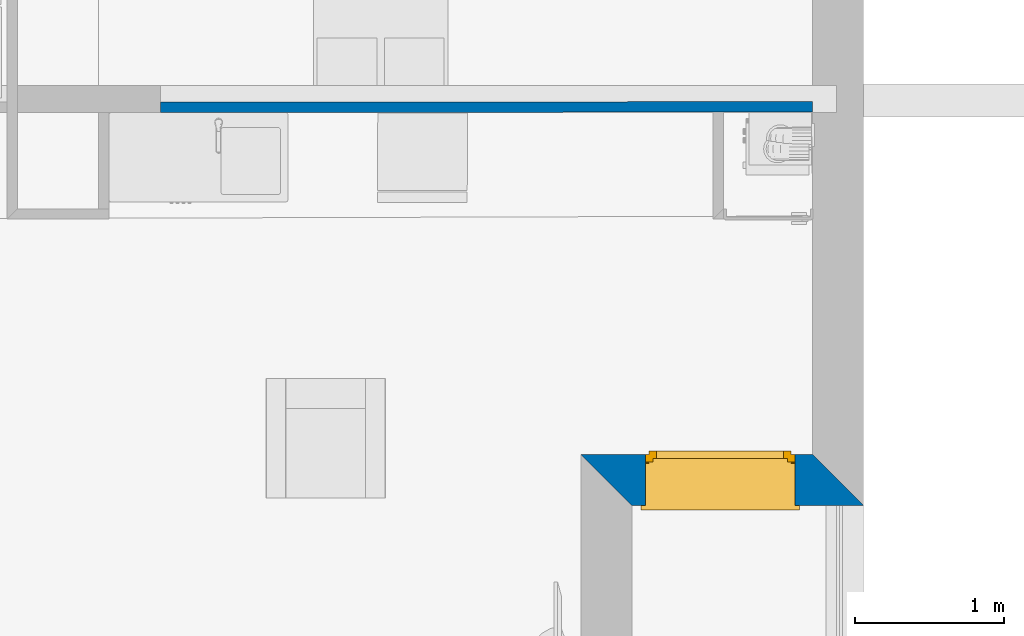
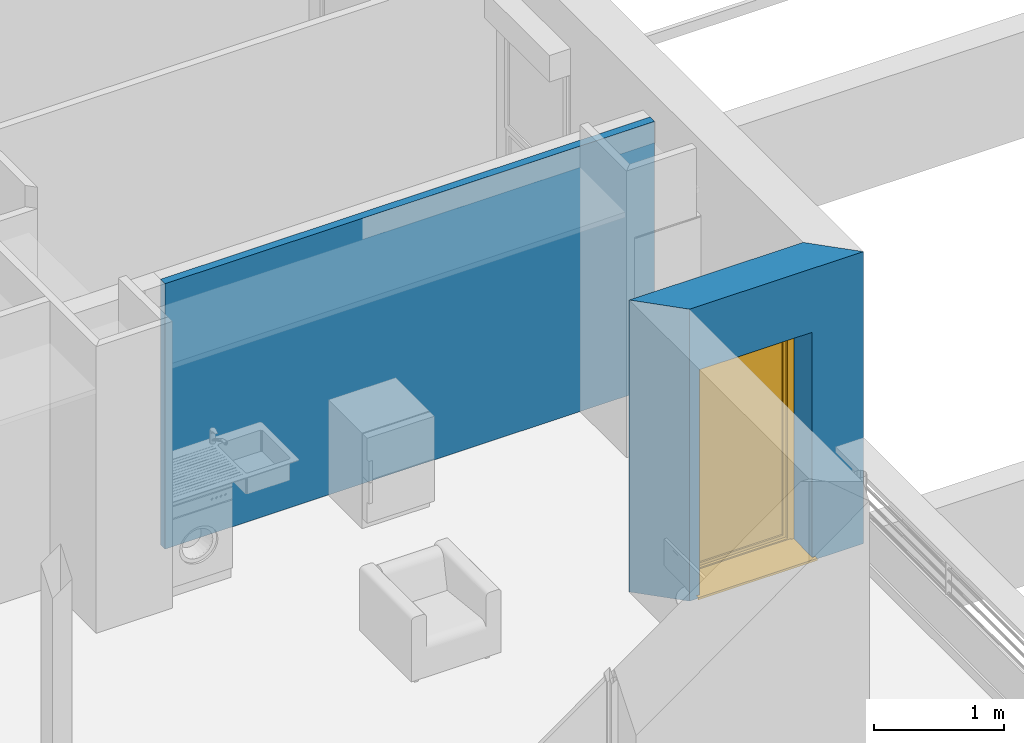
# One storey, part 25 of 171: 2 walls, 1 window, 1 opening.
"""IFC2X3 building model written with IfcOpenShell, lengths in millimetres."""

from ifc_helpers import new_model, entity, si_unit, converted_unit, derived_unit, money_unit, direction, frame, origin_with_axes, place, context, subcontext, project, spatial, polyline, outline, extrude, open_shell, faceted_brep, surface_model, source, transform, mapped, material, layer, layer_set, layer_usage, type_object, element, fill, save


model = new_model("IFC2X3")

# Units and contexts
model_context = context("Model", 3, precision=0.01, world=origin_with_axes(), true_north=direction((0.0, 1.0)))
body_context = subcontext(model_context, "Body", "Model", "MODEL_VIEW")
ifc_project = project(units=[si_unit("LENGTHUNIT", "METRE", prefix="MILLI"), si_unit("AREAUNIT", "SQUARE_METRE"), si_unit("VOLUMEUNIT", "CUBIC_METRE"), converted_unit("PLANEANGLEUNIT", "DEGREE", entity("IfcPlaneAngleMeasure", 0.0174532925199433), si_unit("PLANEANGLEUNIT", "RADIAN"), dimensions=[0, 0, 0, 0, 0, 0, 0]), money_unit("USD"), converted_unit("TIMEUNIT", "Year", entity("IfcTimeMeasure", 31557600.0), si_unit("TIMEUNIT", "SECOND"), dimensions=[0, 0, 1, 0, 0, 0, 0]), si_unit("MASSUNIT", "GRAM", prefix="KILO"), si_unit("THERMODYNAMICTEMPERATUREUNIT", "DEGREE_CELSIUS"), si_unit("LUMINOUSINTENSITYUNIT", "LUMEN"), si_unit("ENERGYUNIT", "JOULE", prefix="MEGA"), derived_unit("THERMALCONDUCTANCEUNIT", [(si_unit("POWERUNIT", "WATT"), 1), (si_unit("LENGTHUNIT", "METRE"), -1), (si_unit("THERMODYNAMICTEMPERATUREUNIT", "KELVIN"), -1)]), derived_unit("SPECIFICHEATCAPACITYUNIT", [(si_unit("ENERGYUNIT", "JOULE"), 1), (si_unit("MASSUNIT", "GRAM", prefix="KILO"), -1), (si_unit("THERMODYNAMICTEMPERATUREUNIT", "KELVIN"), -1)]), derived_unit("MASSDENSITYUNIT", [(si_unit("MASSUNIT", "GRAM", prefix="KILO"), 1), (si_unit("VOLUMEUNIT", "CUBIC_METRE"), -1)])], contexts=[model_context])

# Site, building, storey
site_placement = place(None, origin_with_axes())
site = spatial("IfcSite", under=ifc_project, at=site_placement, Name="Site", CompositionType="ELEMENT")
building_placement = place(site_placement, origin_with_axes())
building = spatial("IfcBuilding", under=site, at=building_placement, Name="Bâtiment", CompositionType="ELEMENT")
storey_placement = place(building_placement, frame((0.0, 0.0, 3000.0), z_axis=(0.0, 0.0, 1.0), x_axis=(1.0, 0.0, 0.0)))
storey = spatial("IfcBuildingStorey", under=building, at=storey_placement, Name="rdc", CompositionType="ELEMENT", Elevation=3000.0)

# Wall
ifc_material_1 = material(Name="Hachure solide 268963992")
ifc_layer_1 = layer(ifc_material_1, 70.0, ventilated="UNKNOWN")
ifc_layer_set_1 = layer_set([ifc_layer_1], Name="Cloison 70 0826278243")
ifc_layer_usage_1 = layer_usage(ifc_layer_set_1, "AXIS2", "NEGATIVE", 70.0)
wall_type_1 = type_object("IfcWallType", Name="Cloison 70 0826278243 70", PredefinedType="NOTDEFINED")
wall_1_placement = place(storey_placement, frame((2229653.476042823, -652412.6820640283, 0.0), z_axis=(0.0, 0.0, 1.0), x_axis=(0.9999998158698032, 0.0006068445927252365, 0.0)))
element("IfcWallStandardCase", 1, at=wall_1_placement, inside=storey, type_object=wall_type_1, material=ifc_layer_usage_1, Name="Mur-149", context=body_context, shape_type="SweptSolid", body=[
    extrude(outline(polyline([(0.0, 0.0), (4363.183309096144, 0.0), (4363.225391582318, 70.00000000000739), (-1.13686837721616e-10, 70.00000000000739), (0.0, 0.0)])), origin_with_axes(), (0.0, 0.0, 1.0), 2500.0),
])

# Wall, opening, window
ifc_material_2 = material(Name="Parpaing 312445824")
ifc_layer_2 = layer(ifc_material_2, 180.0, ventilated="UNKNOWN")
ifc_material_3 = material(Name="Isolant styromousse 301821074")
ifc_layer_3 = layer(ifc_material_3, 160.0, ventilated="UNKNOWN")
ifc_layer_set_2 = layer_set([ifc_layer_2, ifc_layer_3], Name="isol int 18+16 0018356637")
ifc_layer_usage_2 = layer_usage(ifc_layer_set_2, "AXIS2", "POSITIVE", 0.0)
wall_type_2 = type_object("IfcWallType", Name="isol int 18+16 0018356637 340", PredefinedType="NOTDEFINED")
wall_2_placement = place(storey_placement, frame((2232806.658098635, -655041.4677782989, 0.0), z_axis=(0.0, 0.0, 1.0), x_axis=(1.0, 0.0, 0.0)))
wall_2 = element("IfcWallStandardCase", 2, at=wall_2_placement, inside=storey, type_object=wall_type_2, material=ifc_layer_usage_2, Name="Mur-142", context=body_context, shape_type="SweptSolid", body=[
    extrude(outline(polyline([(0.0, 0.0), (1550.015360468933, 0.0), (1210.013433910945, 340.0000000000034), (-340.0000000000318, 340.0000000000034), (0.0, 0.0)])), origin_with_axes(), (0.0, 0.0, 1.0), 2750.0),
])
opening_placement = place(wall_2_placement, frame((591.6458676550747, 0.0, 0.0), z_axis=(0.0, 0.0, 1.0), x_axis=(1.0, 0.0, 0.0)))
opening = element("IfcOpeningElement", 3, at=opening_placement, cuts=wall_2, Name="Fen-134", context=body_context, shape_type="Brep", body=[
    faceted_brep([(-500.0, 341.0000000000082, 2150.0), (500.0, 341.0000000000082, 2150.0), (500.0, 341.0000000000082, 0.0), (-500.0, 341.0000000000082, 0.0), (-500.0, 530.0000000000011, 2150.0), (500.0, 530.0000000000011, 2150.0), (500.0, 290.0000000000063, 2150.0), (500.0, 290.0000000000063, 0.0), (500.0, -1.000000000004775, 0.0), (-500.0, -1.000000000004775, 0.0), (-500.0, 290.0000000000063, 0.0), (-500.0, 290.0000000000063, 2150.0), (-500.0, 280.0000000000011, 2150.0), (-500.0, 280.0000000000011, 2400.0), (-500.0, 530.0000000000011, 2400.0), (500.0, 530.0000000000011, 2400.0), (500.0, 280.0000000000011, 2400.0), (500.0, 280.0000000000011, 2150.0), (500.0, -1.000000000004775, 2150.0), (-500.0, -1.000000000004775, 2150.0)], [[[0, 1, 2, 3]], [[1, 0, 4, 5]], [[1, 6, 7, 2]], [[7, 8, 9, 10, 3, 2]], [[11, 0, 3, 10]], [[0, 11, 12, 13, 14, 4]], [[15, 5, 4, 14]], [[6, 1, 5, 15, 16, 17]], [[6, 17, 18, 8, 7]], [[19, 9, 8, 18]], [[12, 11, 10, 9, 19]], [[12, 17, 16, 13]], [[16, 15, 14, 13]], [[17, 12, 19, 18]]]),
])
window_style = type_object("IfcWindowStyle", Name="Fenêtre 27", ConstructionType="NOTDEFINED", OperationType="SINGLE_PANEL", ParameterTakesPrecedence=False, Sizeable=False)
shared_shape = source(origin_with_axes(), body_context, "Body", "SurfaceModel", [
    surface_model("IfcShellBasedSurfaceModel", [(500.0, -51.00000000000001, 40.00000000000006), (500.0, -51.00000000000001, 50.00000000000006), (-500.0, -51.00000000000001, 50.0), (-500.0, -51.00000000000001, 40.0), (530.0, -369.9999999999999, 28.96551724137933), (530.0, -339.9999999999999, 30.00324289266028), (500.0, -339.9999999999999, 30.00324289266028), (-500.0, -339.9999999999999, 30.00324289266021), (-530.0, -339.9999999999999, 30.00324289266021), (-530.0, -369.9999999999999, 28.96551724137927), (530.0, -369.9999999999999, 8.96551724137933), (-530.0, -369.9999999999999, 8.965517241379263), (530.0, -359.9999999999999, 18.96551724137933), (-530.0, -359.9999999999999, 18.96551724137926)], [open_shell([[[0, 1, 2, 3]], [[4, 5, 6, 0, 3, 7, 8, 9]], [[10, 4, 9, 11]], [[12, 10, 11, 13]]])]),
    faceted_brep([(-500.0, -59.99999999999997, 2400.0), (-497.0, -59.99999999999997, 2400.0), (-497.0, 190.0, 2400.0), (-500.0, 190.0, 2400.0), (-500.0, -59.99999999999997, 2150.0), (-497.0, -59.99999999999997, 2150.0), (-497.0, 190.0, 2150.0), (-500.0, 190.0, 2150.0)], [[[0, 1, 2, 3]], [[4, 5, 1, 0]], [[1, 5, 6, 2]], [[3, 2, 6, 7]], [[0, 3, 7, 4]], [[7, 6, 5, 4]]]),
    faceted_brep([(497.0, -59.99999999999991, 2400.0), (500.0, -59.99999999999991, 2400.0), (500.0, 190.0000000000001, 2400.0), (497.0, 190.0000000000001, 2400.0), (497.0, -59.99999999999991, 2150.0), (500.0, -59.99999999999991, 2150.0), (500.0, 190.0000000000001, 2150.0), (497.0, 190.0000000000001, 2150.0)], [[[0, 1, 2, 3]], [[4, 5, 1, 0]], [[1, 5, 6, 2]], [[3, 2, 6, 7]], [[0, 3, 7, 4]], [[7, 6, 5, 4]]]),
    faceted_brep([(-497.0, -60.0, 2150.0), (497.0, -59.99999999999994, 2150.0), (497.0, -59.99999999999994, 2400.0), (-497.0, -60.0, 2400.0), (-497.0, -56.99999999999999, 2150.0), (497.0, -56.99999999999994, 2150.0), (497.0, -56.99999999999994, 2397.0), (497.0, 187.0000000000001, 2397.0), (497.0, 187.0000000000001, 2153.0), (497.0, -37.99999999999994, 2153.0), (497.0, -37.99999999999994, 2150.0), (497.0, 190.0000000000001, 2150.0), (497.0, 190.0000000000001, 2400.0), (-497.0, 190.0, 2400.0), (-497.0, 190.0, 2150.0), (-497.0, -37.99999999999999, 2150.0), (-497.0, -37.99999999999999, 2153.0), (-497.0, 187.0, 2153.0), (-497.0, 187.0, 2397.0), (-497.0, -56.99999999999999, 2397.0)], [[[0, 1, 2, 3]], [[4, 5, 1, 0]], [[1, 5, 6, 7, 8, 9, 10, 11, 12, 2]], [[3, 2, 12, 13]], [[0, 3, 13, 14, 15, 16, 17, 18, 19, 4]], [[19, 6, 5, 4]], [[18, 7, 6, 19]], [[17, 8, 7, 18]], [[16, 9, 8, 17]], [[15, 10, 9, 16]], [[14, 11, 10, 15]], [[13, 12, 11, 14]]]),
    faceted_brep([(-494.0, -40.37442957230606, 2256.419644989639), (-494.0, -41.99999999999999, 2275.0), (-494.0, -40.37442957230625, 2293.580355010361), (-494.0, -35.54711042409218, 2311.596155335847), (-494.0, -27.66471820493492, 2328.5), (-494.0, -16.96675541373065, 2343.77827423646), (-494.0, -3.778274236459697, 2356.96675541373), (-494.0, 11.5, 2367.664718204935), (-494.0, 28.40384466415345, 2375.547110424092), (-494.0, 46.41964498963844, 2380.374429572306), (-494.0, 64.99999999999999, 2382.0), (-494.0, 83.58035501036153, 2380.374429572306), (-494.0, 101.5961553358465, 2375.547110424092), (-494.0, 118.5, 2367.664718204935), (-494.0, 133.7782742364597, 2356.96675541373), (-494.0, 146.9667554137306, 2343.77827423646), (-494.0, 157.6647182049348, 2328.5), (-494.0, 165.5471104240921, 2311.596155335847), (-494.0, 170.3744295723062, 2293.580355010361), (-494.0, 171.9999999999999, 2275.0), (-494.0, 170.3744295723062, 2256.419644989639), (-494.0, 165.5471104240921, 2238.403844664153), (-494.0, 157.6647182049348, 2221.5), (-494.0, 146.9667554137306, 2206.22172576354), (-494.0, 133.7782742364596, 2193.033244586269), (-494.0, 118.4999999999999, 2182.335281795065), (-494.0, 101.5961553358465, 2174.452889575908), (-494.0, 83.58035501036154, 2169.625570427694), (-494.0, 65.00000000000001, 2168.0), (-494.0, 46.4196449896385, 2169.625570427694), (-494.0, 28.40384466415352, 2174.452889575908), (-494.0, 11.50000000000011, 2182.335281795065), (-494.0, -3.778274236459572, 2193.033244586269), (-494.0, -16.9667554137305, 2206.22172576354), (-494.0, -27.66471820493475, 2221.5), (-494.0, -35.54711042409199, 2238.403844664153), (494.0, -40.374429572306, 2256.419644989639), (494.0, -41.99999999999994, 2275.0), (494.0, -40.37442957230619, 2293.580355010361), (494.0, -35.54711042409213, 2311.596155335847), (494.0, -27.66471820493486, 2328.5), (494.0, -16.96675541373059, 2343.77827423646), (494.0, -3.778274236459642, 2356.96675541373), (494.0, 11.50000000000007, 2367.664718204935), (494.0, 28.40384466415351, 2375.547110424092), (494.0, 46.41964498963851, 2380.374429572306), (494.0, 65.00000000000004, 2382.0), (494.0, 83.58035501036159, 2380.374429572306), (494.0, 101.5961553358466, 2375.547110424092), (494.0, 118.5, 2367.664718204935), (494.0, 133.7782742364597, 2356.96675541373), (494.0, 146.9667554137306, 2343.77827423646), (494.0, 157.6647182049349, 2328.5), (494.0, 165.5471104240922, 2311.596155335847), (494.0, 170.3744295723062, 2293.580355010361), (494.0, 172.0, 2275.0), (494.0, 170.3744295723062, 2256.419644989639), (494.0, 165.5471104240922, 2238.403844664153), (494.0, 157.6647182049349, 2221.5), (494.0, 146.9667554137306, 2206.22172576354), (494.0, 133.7782742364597, 2193.033244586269), (494.0, 118.5, 2182.335281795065), (494.0, 101.5961553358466, 2174.452889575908), (494.0, 83.5803550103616, 2169.625570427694), (494.0, 65.00000000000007, 2168.0), (494.0, 46.41964498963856, 2169.625570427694), (494.0, 28.40384466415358, 2174.452889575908), (494.0, 11.50000000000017, 2182.335281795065), (494.0, -3.778274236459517, 2193.033244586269), (494.0, -16.96675541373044, 2206.22172576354), (494.0, -27.6647182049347, 2221.5), (494.0, -35.54711042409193, 2238.403844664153)], [[[0, 1, 2, 3, 4, 5, 6, 7, 8, 9, 10, 11, 12, 13, 14, 15, 16, 17, 18, 19, 20, 21, 22, 23, 24, 25, 26, 27, 28, 29, 30, 31, 32, 33, 34, 35]], [[0, 36, 37, 1]], [[1, 37, 38, 2]], [[2, 38, 39, 3]], [[3, 39, 40, 4]], [[4, 40, 41, 5]], [[5, 41, 42, 6]], [[6, 42, 43, 7]], [[7, 43, 44, 8]], [[8, 44, 45, 9]], [[9, 45, 46, 10]], [[10, 46, 47, 11]], [[11, 47, 48, 12]], [[12, 48, 49, 13]], [[13, 49, 50, 14]], [[14, 50, 51, 15]], [[15, 51, 52, 16]], [[16, 52, 53, 17]], [[17, 53, 54, 18]], [[18, 54, 55, 19]], [[19, 55, 56, 20]], [[20, 56, 57, 21]], [[21, 57, 58, 22]], [[22, 58, 59, 23]], [[23, 59, 60, 24]], [[24, 60, 61, 25]], [[25, 61, 62, 26]], [[26, 62, 63, 27]], [[27, 63, 64, 28]], [[28, 64, 65, 29]], [[29, 65, 66, 30]], [[30, 66, 67, 31]], [[31, 67, 68, 32]], [[32, 68, 69, 33]], [[33, 69, 70, 34]], [[34, 70, 71, 35]], [[35, 71, 36, 0]], [[36, 71, 70, 69, 68, 67, 66, 65, 64, 63, 62, 61, 60, 59, 58, 57, 56, 55, 54, 53, 52, 51, 50, 49, 48, 47, 46, 45, 44, 43, 42, 41, 40, 39, 38, 37]]]),
    faceted_brep([(500.0, -34.99999999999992, 30.0), (500.0, -34.99999999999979, 2150.0), (500.0, -59.99999999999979, 2150.0), (500.0, -59.99999999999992, 30.0), (475.0, -34.99999999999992, 30.0), (475.0, -34.99999999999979, 2150.0), (475.0, -37.99999999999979, 2150.0), (497.0, -37.99999999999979, 2150.0), (497.0, -56.99999999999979, 2150.0), (475.0, -56.99999999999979, 2150.0), (475.0, -59.99999999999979, 2150.0), (475.0, -59.99999999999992, 30.0), (475.0, -56.99999999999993, 30.0), (497.0, -56.99999999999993, 30.0), (497.0, -37.99999999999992, 30.0), (475.0, -37.99999999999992, 30.0)], [[[0, 1, 2, 3]], [[4, 5, 1, 0]], [[1, 5, 6, 7, 8, 9, 10, 2]], [[3, 2, 10, 11]], [[0, 3, 11, 12, 13, 14, 15, 4]], [[15, 6, 5, 4]], [[14, 7, 6, 15]], [[13, 8, 7, 14]], [[12, 9, 8, 13]], [[11, 10, 9, 12]]]),
    faceted_brep([(-500.0, -34.99999999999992, 30.0), (-500.0, -59.99999999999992, 30.0), (-500.0, -59.99999999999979, 2150.0), (-500.0, -34.99999999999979, 2150.0), (-475.0, -34.99999999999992, 30.0), (-475.0, -37.99999999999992, 30.0), (-497.0, -37.99999999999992, 30.0), (-497.0, -56.99999999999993, 30.0), (-475.0, -56.99999999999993, 30.0), (-475.0, -59.99999999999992, 30.0), (-475.0, -59.99999999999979, 2150.0), (-475.0, -56.99999999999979, 2150.0), (-497.0, -56.99999999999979, 2150.0), (-497.0, -37.99999999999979, 2150.0), (-475.0, -37.99999999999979, 2150.0), (-475.0, -34.99999999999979, 2150.0)], [[[0, 1, 2, 3]], [[0, 4, 5, 6, 7, 8, 9, 1]], [[1, 9, 10, 2]], [[3, 2, 10, 11, 12, 13, 14, 15]], [[4, 0, 3, 15]], [[5, 4, 15, 14]], [[6, 5, 14, 13]], [[7, 6, 13, 12]], [[8, 7, 12, 11]], [[9, 8, 11, 10]]]),
    faceted_brep([(497.0, -46.66666666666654, 2275.0), (497.0, -46.66666666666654, 2266.666666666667), (-497.0, -46.6666666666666, 2266.666666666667), (-497.0, -46.6666666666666, 2275.0), (497.0, -51.66666666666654, 2275.0), (497.0, -51.66666666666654, 2266.666666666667), (497.0, -49.99999999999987, 2250.0), (497.0, -44.99999999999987, 2250.0), (-497.0, -44.99999999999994, 2250.0), (-497.0, -49.99999999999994, 2250.0), (-497.0, -51.6666666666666, 2266.666666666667), (-497.0, -51.6666666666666, 2275.0)], [[[0, 1, 2, 3]], [[4, 5, 6, 7, 1, 0]], [[2, 1, 7, 8]], [[3, 2, 8, 9, 10, 11]], [[3, 11, 4, 0]], [[10, 5, 4, 11]], [[9, 6, 5, 10]], [[8, 7, 6, 9]]]),
    faceted_brep([(-497.0, -44.99999999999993, 2250.0), (497.0, -44.99999999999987, 2250.0), (497.0, -46.66666666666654, 2233.333333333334), (-497.0, -46.6666666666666, 2233.333333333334), (-497.0, -49.99999999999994, 2250.0), (497.0, -49.99999999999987, 2250.0), (497.0, -51.66666666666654, 2233.333333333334), (497.0, -51.66666666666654, 2216.666666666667), (497.0, -49.99999999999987, 2200.0), (497.0, -44.99999999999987, 2200.0), (497.0, -46.66666666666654, 2216.666666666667), (-497.0, -46.6666666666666, 2216.666666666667), (-497.0, -44.99999999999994, 2200.0), (-497.0, -49.99999999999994, 2200.0), (-497.0, -51.6666666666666, 2216.666666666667), (-497.0, -51.6666666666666, 2233.333333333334)], [[[0, 1, 2, 3]], [[4, 5, 1, 0]], [[1, 5, 6, 7, 8, 9, 10, 2]], [[3, 2, 10, 11]], [[0, 3, 11, 12, 13, 14, 15, 4]], [[15, 6, 5, 4]], [[14, 7, 6, 15]], [[13, 8, 7, 14]], [[12, 9, 8, 13]], [[11, 10, 9, 12]]]),
    faceted_brep([(-497.0, -44.99999999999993, 2200.0), (497.0, -44.99999999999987, 2200.0), (497.0, -46.66666666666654, 2183.333333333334), (-497.0, -46.6666666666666, 2183.333333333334), (-497.0, -49.99999999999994, 2200.0), (497.0, -49.99999999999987, 2200.0), (497.0, -51.66666666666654, 2183.333333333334), (497.0, -51.66666666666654, 2166.666666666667), (497.0, -49.99999999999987, 2150.000000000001), (497.0, -44.99999999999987, 2150.000000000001), (497.0, -46.66666666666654, 2166.666666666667), (-497.0, -46.6666666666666, 2166.666666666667), (-497.0, -44.99999999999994, 2150.000000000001), (-497.0, -49.99999999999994, 2150.000000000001), (-497.0, -51.6666666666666, 2166.666666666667), (-497.0, -51.6666666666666, 2183.333333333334)], [[[0, 1, 2, 3]], [[4, 5, 1, 0]], [[1, 5, 6, 7, 8, 9, 10, 2]], [[3, 2, 10, 11]], [[0, 3, 11, 12, 13, 14, 15, 4]], [[15, 6, 5, 4]], [[14, 7, 6, 15]], [[13, 8, 7, 14]], [[12, 9, 8, 13]], [[11, 10, 9, 12]]]),
    faceted_brep([(-475.0000000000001, 0.0, 2100.0), (-500.0, 0.0, 2100.0), (-500.0, -50.00000000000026, 2100.0), (-450.0, -50.00000000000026, 2100.0), (-450.0, -25.00000000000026, 2100.0), (-475.0000000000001, -25.00000000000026, 2100.0), (-475.0000000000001, 0.0, 50.00000000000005), (-500.0, 0.0, 50.00000000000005), (-500.0, -50.00000000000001, 50.00000000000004), (-450.0, -50.00000000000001, 50.00000000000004), (-450.0, -25.00000000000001, 50.00000000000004), (-475.0000000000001, -25.00000000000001, 50.00000000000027)], [[[0, 1, 2, 3, 4, 5]], [[6, 7, 1, 0]], [[1, 7, 8, 2]], [[2, 8, 9, 3]], [[4, 3, 9, 10]], [[10, 11, 5, 4]], [[5, 11, 6, 0]], [[11, 10, 9, 8, 7, 6]]]),
    faceted_brep([(450.0, -25.00000000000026, 2100.0), (450.0, -50.00000000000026, 2100.0), (500.0, -50.00000000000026, 2100.0), (500.0, 0.0, 2100.0), (475.0000000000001, 0.0, 2100.0), (475.0000000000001, -25.00000000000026, 2100.0), (450.0, -25.00000000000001, 50.00000000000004), (450.0, -50.00000000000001, 50.00000000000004), (500.0, -50.00000000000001, 50.00000000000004), (500.0, 0.0, 50.00000000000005), (475.0000000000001, 0.0, 50.00000000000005), (475.0000000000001, -25.00000000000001, 50.00000000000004)], [[[0, 1, 2, 3, 4, 5]], [[6, 7, 1, 0]], [[8, 2, 1, 7]], [[9, 3, 2, 8]], [[4, 3, 9, 10]], [[10, 11, 5, 4]], [[5, 11, 6, 0]], [[11, 10, 9, 8, 7, 6]]]),
    faceted_brep([(450.0, -25.00000000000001, 50.00000000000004), (450.0, -50.00000000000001, 50.00000000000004), (500.0, -50.00000000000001, 50.00000000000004), (500.0, 0.0, 50.00000000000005), (475.0000000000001, 0.0, 50.00000000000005), (475.0000000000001, -25.00000000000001, 50.00000000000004), (-450.0, -25.00000000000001, 50.00000000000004), (-450.0, -50.00000000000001, 50.00000000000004), (-500.0, -50.00000000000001, 50.00000000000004), (-500.0, -50.0, 0.0), (500.0, -50.0, 0.0), (500.0, 0.0, 0.0), (-475.0000000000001, 0.0, 24.99999999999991), (475.0000000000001, 0.0, 24.99999999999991), (-500.0, 0.0, 0.0), (-500.0, 0.0, 50.00000000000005), (-475.0000000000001, 0.0, 50.00000000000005), (475.0000000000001, -25.0, 24.99999999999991), (-475.0000000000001, -25.0, 24.99999999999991), (-475.0000000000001, -25.00000000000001, 50.00000000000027)], [[[0, 1, 2, 3, 4, 5]], [[6, 7, 1, 0]], [[8, 9, 10, 2, 1, 7]], [[11, 3, 2, 10]], [[12, 13, 4, 3, 11, 14, 15, 16]], [[13, 17, 5, 4]], [[5, 17, 18, 19, 6, 0]], [[19, 16, 15, 8, 7, 6]], [[15, 14, 9, 8]], [[14, 11, 10, 9]], [[12, 18, 17, 13]], [[19, 18, 12, 16]]]),
    faceted_brep([(-475.0000000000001, 0.0, 2100.0), (-500.0, 0.0, 2100.0), (-500.0, 0.0, 2150.0), (500.0, 0.0, 2150.0), (500.0, 0.0, 2100.0), (475.0000000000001, 0.0, 2100.0), (475.0000000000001, 0.0, 2125.0), (-475.0000000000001, 0.0, 2125.0), (-475.0000000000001, -25.00000000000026, 2100.0), (-450.0, -25.00000000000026, 2100.0), (-450.0, -50.00000000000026, 2100.0), (-500.0, -50.00000000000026, 2100.0), (-500.0, -50.00000000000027, 2150.0), (500.0, -50.00000000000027, 2150.0), (500.0, -50.00000000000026, 2100.0), (475.0000000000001, -25.00000000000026, 2100.0), (450.0, -50.00000000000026, 2100.0), (450.0, -25.00000000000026, 2100.0), (475.0000000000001, -25.00000000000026, 2125.0), (-475.0000000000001, -25.00000000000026, 2125.0)], [[[0, 1, 2, 3, 4, 5, 6, 7]], [[8, 9, 10, 11, 1, 0]], [[2, 1, 11, 12]], [[3, 2, 12, 13]], [[4, 3, 13, 14]], [[15, 5, 4, 14, 16, 17]], [[5, 15, 18, 6]], [[6, 18, 19, 7]], [[7, 19, 8, 0]], [[17, 9, 8, 19, 18, 15]], [[17, 16, 10, 9]], [[14, 13, 12, 11, 10, 16]]]),
    faceted_brep([(-425.0000000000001, -25.00000000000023, 2075.0), (-425.0000000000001, 24.99999999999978, 2075.0), (-475.0000000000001, 24.99999999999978, 2075.0), (-475.0000000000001, -25.00000000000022, 2075.0), (-425.0000000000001, -24.99999999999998, 75.00000000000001), (-425.0000000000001, 25.00000000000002, 75.00000000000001), (-475.0000000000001, 25.00000000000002, 75.00000000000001), (-475.0000000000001, -24.99999999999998, 75.00000000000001)], [[[0, 1, 2, 3]], [[4, 5, 1, 0]], [[1, 5, 6, 2]], [[3, 2, 6, 7]], [[0, 3, 7, 4]], [[7, 6, 5, 4]]]),
    faceted_brep([(425.0000000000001, -25.00000000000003, 75.00000000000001), (425.0000000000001, 24.99999999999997, 75.00000000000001), (475.0000000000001, 24.99999999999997, 75.00000000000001), (475.0000000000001, -25.00000000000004, 75.00000000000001), (425.0000000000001, -25.00000000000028, 2075.0), (425.0000000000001, 24.99999999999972, 2075.0), (475.0000000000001, 24.99999999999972, 2075.0), (475.0000000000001, -25.00000000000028, 2075.0)], [[[0, 1, 2, 3]], [[4, 5, 1, 0]], [[1, 5, 6, 2]], [[3, 2, 6, 7]], [[0, 3, 7, 4]], [[7, 6, 5, 4]]]),
    faceted_brep([(475.0000000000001, -25.00000000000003, 25.0), (475.0000000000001, 24.99999999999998, 25.00000000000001), (475.0000000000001, 24.99999999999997, 75.00000000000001), (475.0000000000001, -25.00000000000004, 75.00000000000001), (-475.0000000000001, -24.99999999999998, 25.0), (-475.0000000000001, 25.00000000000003, 25.00000000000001), (-475.0000000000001, 25.00000000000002, 75.00000000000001), (-425.0000000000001, 25.00000000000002, 75.00000000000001), (425.0000000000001, 24.99999999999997, 75.00000000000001), (425.0000000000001, -25.00000000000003, 75.00000000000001), (-425.0000000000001, -24.99999999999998, 75.00000000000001), (-475.0000000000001, -24.99999999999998, 75.00000000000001)], [[[0, 1, 2, 3]], [[4, 5, 1, 0]], [[1, 5, 6, 7, 8, 2]], [[3, 2, 8, 9]], [[0, 3, 9, 10, 11, 4]], [[11, 6, 5, 4]], [[10, 7, 6, 11]], [[9, 8, 7, 10]]]),
    faceted_brep([(-475.0000000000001, -25.00000000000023, 2125.0), (-475.0000000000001, 24.99999999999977, 2125.0), (-475.0000000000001, 24.99999999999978, 2075.0), (-475.0000000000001, -25.00000000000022, 2075.0), (475.0000000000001, -25.00000000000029, 2125.0), (475.0000000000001, 24.99999999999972, 2125.0), (475.0000000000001, 24.99999999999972, 2075.0), (425.0000000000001, 24.99999999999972, 2075.0), (-425.0000000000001, 24.99999999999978, 2075.0), (-425.0000000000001, -25.00000000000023, 2075.0), (425.0000000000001, -25.00000000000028, 2075.0), (475.0000000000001, -25.00000000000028, 2075.0)], [[[0, 1, 2, 3]], [[4, 5, 1, 0]], [[1, 5, 6, 7, 8, 2]], [[3, 2, 8, 9]], [[0, 3, 9, 10, 11, 4]], [[11, 6, 5, 4]], [[10, 7, 6, 11]], [[9, 8, 7, 10]]]),
    surface_model("IfcShellBasedSurfaceModel", [(-425.0000000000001, -10.00000000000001, 75.00000000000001), (425.0000000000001, -10.00000000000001, 75.00000000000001), (425.0000000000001, -10.00000000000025, 2075.0), (-425.0000000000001, -10.00000000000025, 2075.0)], [open_shell([[[0, 1, 2, 3]]])]),
    surface_model("IfcShellBasedSurfaceModel", [(-425.0000000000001, 9.999999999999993, 75.00000000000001), (-425.0000000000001, 9.99999999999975, 2075.0), (425.0000000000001, 9.99999999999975, 2075.0), (425.0000000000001, 9.999999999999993, 75.00000000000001)], [open_shell([[[0, 1, 2, 3]]])]),
])
window_placement = place(opening_placement, frame((-500.0000000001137, 0.0, 0.0), z_axis=(0.0, 0.0, 1.0), x_axis=(1.0, 0.0, 0.0)))
window = element("IfcWindow", 4, at=window_placement, inside=storey, type_object=window_style, Name="Fen-134", OverallHeight=2150.0, OverallWidth=1000.0, context=body_context, shape_type="MappedRepresentation", body=[
    mapped(shared_shape, transform((500.0, 340.0000000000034, 0.0))),
])
fill(opening, window)

save(model, "model.ifc")
